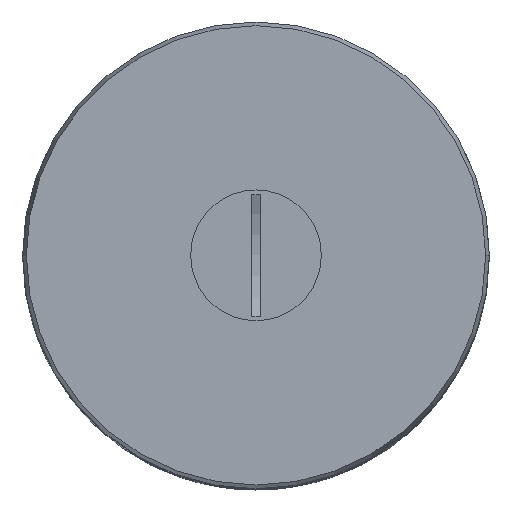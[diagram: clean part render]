
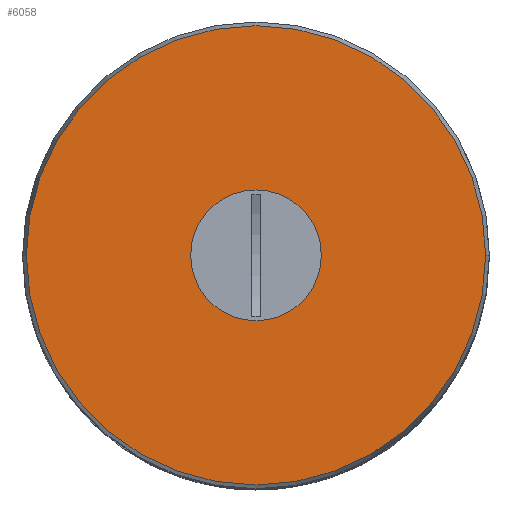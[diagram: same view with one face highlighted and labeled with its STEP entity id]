
A CAD part, top view. The second image highlights one B-rep face of the part: STEP entity #6058.
In plain terms, the highlighted planar face has unit normal (0, 0, 1).
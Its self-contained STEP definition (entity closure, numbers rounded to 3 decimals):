
#106 = DIRECTION ( 'NONE',  ( 1., 0., 0. ) ) ;
#602 = DIRECTION ( 'NONE',  ( 1., 0., 0. ) ) ;
#739 = VERTEX_POINT ( 'NONE', #7678 ) ;
#1361 = CARTESIAN_POINT ( 'NONE',  ( -49.196, 0., 0. ) ) ;
#1629 = EDGE_CURVE ( 'NONE', #739, #7590, #1722, .T. ) ;
#1722 = CIRCLE ( 'NONE', #5681, 12.25 ) ;
#1764 = CARTESIAN_POINT ( 'NONE',  ( 0., 0., 0. ) ) ;
#1765 = CARTESIAN_POINT ( 'NONE',  ( 0., 0., 0. ) ) ;
#1797 = ORIENTED_EDGE ( 'NONE', *, *, #2398, .F. ) ;
#1945 = DIRECTION ( 'NONE',  ( 0., 0., 1. ) ) ;
#2203 = CARTESIAN_POINT ( 'NONE',  ( 0., 0., 0. ) ) ;
#2398 = EDGE_CURVE ( 'NONE', #7590, #739, #2551, .T. ) ;
#2551 = CIRCLE ( 'NONE', #3802, 12.25 ) ;
#2884 = FACE_BOUND ( 'NONE', #6808, .T. ) ;
#2938 = CIRCLE ( 'NONE', #6366, 49.196 ) ;
#3243 = ORIENTED_EDGE ( 'NONE', *, *, #10242, .T. ) ;
#3802 = AXIS2_PLACEMENT_3D ( 'NONE', #1765, #9275, #9379 ) ;
#3889 = DIRECTION ( 'NONE',  ( 0., 0., 1. ) ) ;
#4081 = CARTESIAN_POINT ( 'NONE',  ( 49.196, 0., 0. ) ) ;
#4246 = ORIENTED_EDGE ( 'NONE', *, *, #1629, .F. ) ;
#4332 = DIRECTION ( 'NONE',  ( 0., 0., 1. ) ) ;
#4408 = VERTEX_POINT ( 'NONE', #1361 ) ;
#4413 = VERTEX_POINT ( 'NONE', #4081 ) ;
#4613 = PLANE ( 'NONE',  #9715 ) ;
#4788 = DIRECTION ( 'NONE',  ( 0., 0., 1. ) ) ;
#4793 = CARTESIAN_POINT ( 'NONE',  ( 0., 0., 0. ) ) ;
#5088 = AXIS2_PLACEMENT_3D ( 'NONE', #4793, #3889, #602 ) ;
#5681 = AXIS2_PLACEMENT_3D ( 'NONE', #6969, #1945, #6111 ) ;
#6058 = ADVANCED_FACE ( 'NONE', ( #8984, #2884 ), #4613, .T. ) ;
#6111 = DIRECTION ( 'NONE',  ( 1., 0., 0. ) ) ;
#6366 = AXIS2_PLACEMENT_3D ( 'NONE', #1764, #4332, #106 ) ;
#6808 = EDGE_LOOP ( 'NONE', ( #4246, #1797 ) ) ;
#6930 = EDGE_LOOP ( 'NONE', ( #7998, #3243 ) ) ;
#6969 = CARTESIAN_POINT ( 'NONE',  ( 0., 0., 0. ) ) ;
#7505 = CARTESIAN_POINT ( 'NONE',  ( -12.25, 0., 0. ) ) ;
#7590 = VERTEX_POINT ( 'NONE', #7505 ) ;
#7678 = CARTESIAN_POINT ( 'NONE',  ( 12.25, 0., 0. ) ) ;
#7998 = ORIENTED_EDGE ( 'NONE', *, *, #10458, .T. ) ;
#8984 = FACE_OUTER_BOUND ( 'NONE', #6930, .T. ) ;
#9275 = DIRECTION ( 'NONE',  ( 0., 0., 1. ) ) ;
#9379 = DIRECTION ( 'NONE',  ( 1., 0., 0. ) ) ;
#9715 = AXIS2_PLACEMENT_3D ( 'NONE', #2203, #4788, #9831 ) ;
#9831 = DIRECTION ( 'NONE',  ( 1., 0., 0. ) ) ;
#9971 = CIRCLE ( 'NONE', #5088, 49.196 ) ;
#10242 = EDGE_CURVE ( 'NONE', #4413, #4408, #2938, .T. ) ;
#10458 = EDGE_CURVE ( 'NONE', #4408, #4413, #9971, .T. ) ;
